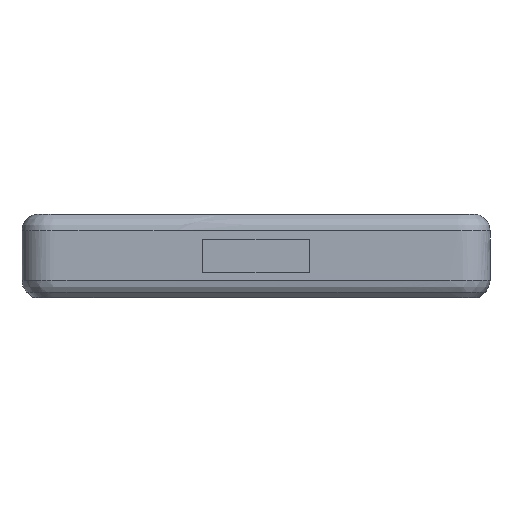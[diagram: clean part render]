
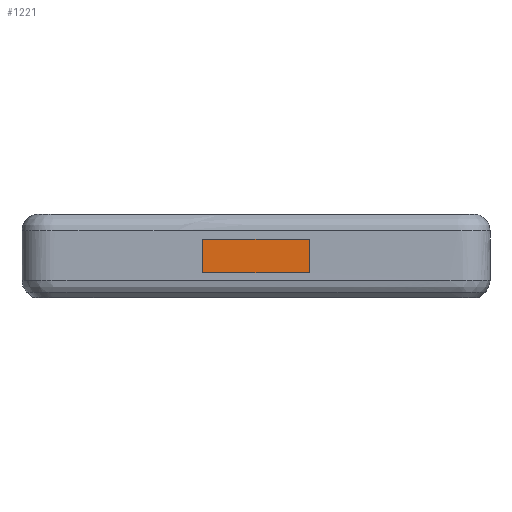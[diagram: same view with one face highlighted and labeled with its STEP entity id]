
A CAD part, left-side view. The second image highlights one B-rep face of the part: STEP entity #1221.
In plain terms, the highlighted planar face has unit normal (-1, 0, 0).
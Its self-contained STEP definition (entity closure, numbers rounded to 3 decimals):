
#1221=ADVANCED_FACE($,(#2600),#18719,.T.);
#2600=FACE_OUTER_BOUND($,#3978,.T.);
#3978=EDGE_LOOP($,(#11000,#11001,#11002,#11003));
#11000=ORIENTED_EDGE($,*,*,#15051,.F.);
#11001=ORIENTED_EDGE($,*,*,#15052,.F.);
#11002=ORIENTED_EDGE($,*,*,#15053,.F.);
#11003=ORIENTED_EDGE($,*,*,#15050,.F.);
#15050=EDGE_CURVE($,#17502,#17505,#22063,.T.);
#15051=EDGE_CURVE($,#17503,#17502,#22064,.T.);
#15052=EDGE_CURVE($,#17504,#17503,#22065,.T.);
#15053=EDGE_CURVE($,#17505,#17504,#22066,.T.);
#17502=VERTEX_POINT($,#61591);
#17503=VERTEX_POINT($,#61592);
#17504=VERTEX_POINT($,#61593);
#17505=VERTEX_POINT($,#61594);
#18719=PLANE($,#23518);
#22063=B_SPLINE_CURVE_WITH_KNOTS($,1,(#43950,#43951),.UNSPECIFIED.,.F.,.F.,
(2,2),(0.,10.),.UNSPECIFIED.);
#22064=B_SPLINE_CURVE_WITH_KNOTS($,1,(#43952,#43953),.UNSPECIFIED.,.F.,.F.,
(2,2),(10.2,10.3),.UNSPECIFIED.);
#22065=B_SPLINE_CURVE_WITH_KNOTS($,1,(#43954,#43955),.UNSPECIFIED.,.F.,.F.,
(2,2),(10.1,10.2),.UNSPECIFIED.);
#22066=B_SPLINE_CURVE_WITH_KNOTS($,1,(#43956,#43957),.UNSPECIFIED.,.F.,.F.,
(2,2),(10.,10.1),.UNSPECIFIED.);
#23518=AXIS2_PLACEMENT_3D($,#58661,#24318,$);
#24318=DIRECTION($,(-1.,0.,0.));
#43950=CARTESIAN_POINT($,(2.1,17.3,-0.1));
#43951=CARTESIAN_POINT($,(2.1,27.5,-0.1));
#43952=CARTESIAN_POINT($,(2.1,17.3,3.1));
#43953=CARTESIAN_POINT($,(2.1,17.3,-0.1));
#43954=CARTESIAN_POINT($,(2.1,27.5,3.1));
#43955=CARTESIAN_POINT($,(2.1,17.3,3.1));
#43956=CARTESIAN_POINT($,(2.1,27.5,-0.1));
#43957=CARTESIAN_POINT($,(2.1,27.5,3.1));
#58661=CARTESIAN_POINT($,(2.1,17.3,-0.1));
#61591=CARTESIAN_POINT($,(2.1,17.3,-0.1));
#61592=CARTESIAN_POINT($,(2.1,17.3,3.1));
#61593=CARTESIAN_POINT($,(2.1,27.5,3.1));
#61594=CARTESIAN_POINT($,(2.1,27.5,-0.1));
